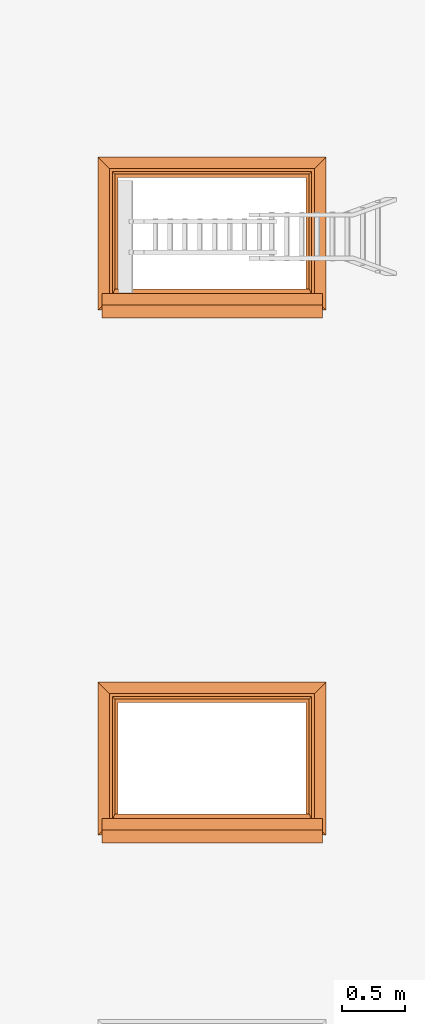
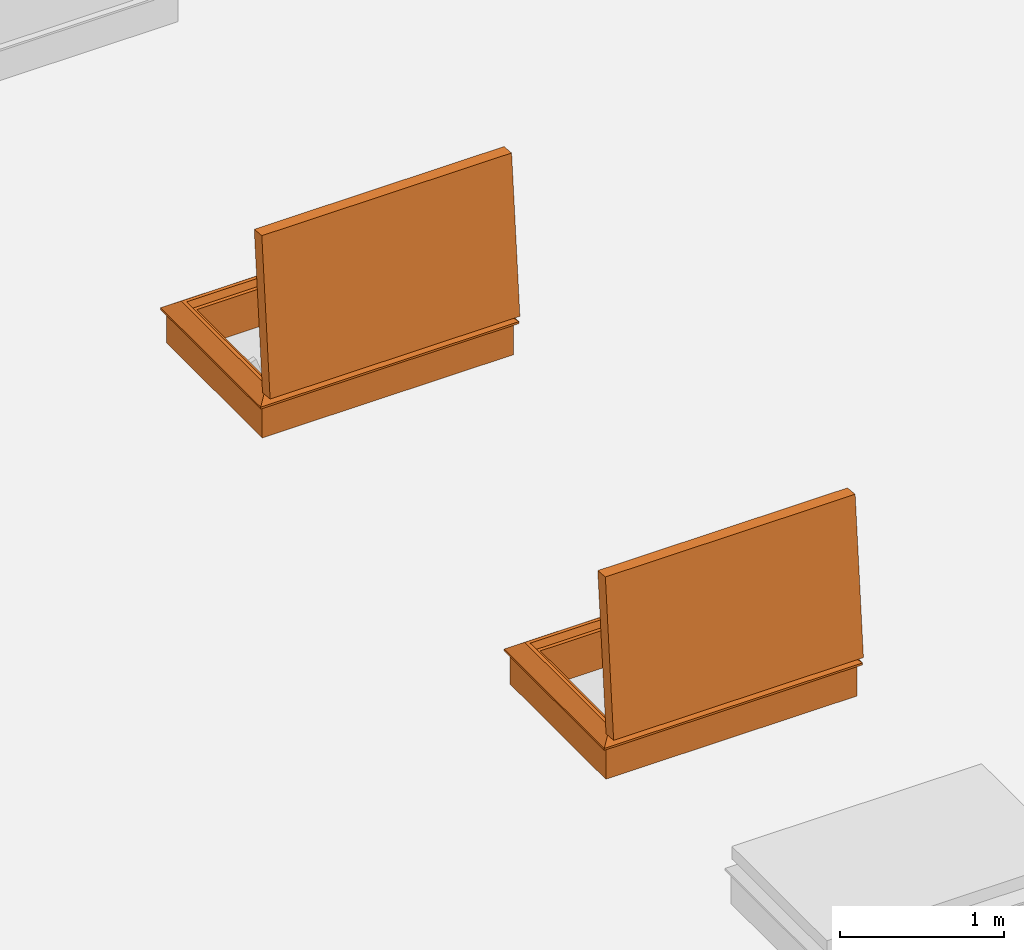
# One storey, part 17 of 28: 2 proxies.
"""IFC2X3 building model written with IfcOpenShell, lengths in millimetres."""

from ifc_helpers import new_model, entity, si_unit, converted_unit, derived_unit, direction, frame, origin, place, context, subcontext, project, spatial, faceted_brep, source, transform, mapped, type_object, type_shapes, element, save


model = new_model("IFC2X3")

# Units and contexts
model_context = context("Model", 3, precision=0.01, world=origin(), true_north=direction((6.12303176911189e-17, 1.0)))
body_context = subcontext(model_context, "Body", "Model", "MODEL_VIEW")
ifc_project = project(units=[si_unit("LENGTHUNIT", "METRE", prefix="MILLI"), si_unit("AREAUNIT", "SQUARE_METRE"), si_unit("VOLUMEUNIT", "CUBIC_METRE"), converted_unit("PLANEANGLEUNIT", "DEGREE", entity("IfcRatioMeasure", 0.0174532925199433), si_unit("PLANEANGLEUNIT", "RADIAN"), dimensions=[0, 0, 0, 0, 0, 0, 0]), si_unit("MASSUNIT", "GRAM", prefix="KILO"), derived_unit("MASSDENSITYUNIT", [(si_unit("MASSUNIT", "GRAM", prefix="KILO"), 1), (si_unit("LENGTHUNIT", "METRE"), -3)]), si_unit("TIMEUNIT", "SECOND"), si_unit("FREQUENCYUNIT", "HERTZ"), si_unit("THERMODYNAMICTEMPERATUREUNIT", "DEGREE_CELSIUS"), derived_unit("THERMALTRANSMITTANCEUNIT", [(si_unit("MASSUNIT", "GRAM", prefix="KILO"), 1), (si_unit("THERMODYNAMICTEMPERATUREUNIT", "KELVIN"), -1), (si_unit("TIMEUNIT", "SECOND"), -3)]), derived_unit("VOLUMETRICFLOWRATEUNIT", [(si_unit("LENGTHUNIT", "METRE"), 3), (si_unit("TIMEUNIT", "SECOND"), -1)]), si_unit("ELECTRICCURRENTUNIT", "AMPERE"), si_unit("ELECTRICVOLTAGEUNIT", "VOLT"), si_unit("POWERUNIT", "WATT"), si_unit("FORCEUNIT", "NEWTON", prefix="KILO"), si_unit("ILLUMINANCEUNIT", "LUX"), si_unit("LUMINOUSFLUXUNIT", "LUMEN"), si_unit("LUMINOUSINTENSITYUNIT", "CANDELA"), derived_unit("USERDEFINED", [(si_unit("MASSUNIT", "GRAM", prefix="KILO"), -1), (si_unit("LENGTHUNIT", "METRE"), -2), (si_unit("TIMEUNIT", "SECOND"), 3), (si_unit("LUMINOUSFLUXUNIT", "LUMEN"), 1)]), derived_unit("LINEARVELOCITYUNIT", [(si_unit("LENGTHUNIT", "METRE"), 1), (si_unit("TIMEUNIT", "SECOND"), -1)]), si_unit("PRESSUREUNIT", "PASCAL"), derived_unit("USERDEFINED", [(si_unit("LENGTHUNIT", "METRE"), -2), (si_unit("MASSUNIT", "GRAM", prefix="KILO"), 1), (si_unit("TIMEUNIT", "SECOND"), -2)])], contexts=[model_context])

# Site, building, storey
site_placement = place(None, origin())
site = spatial("IfcSite", under=ifc_project, at=site_placement, Name="Default", CompositionType="ELEMENT")
building_placement = place(site_placement, origin())
building = spatial("IfcBuilding", under=site, at=building_placement, CompositionType="ELEMENT")
storey_placement = place(building_placement, frame((0.0, 0.0, 4000.0)))
storey = spatial("IfcBuildingStorey", under=building, at=storey_placement, Name="Level 2", CompositionType="ELEMENT", Elevation=4000.0)

# Proxies
building_element_proxy_type_1 = type_object("IfcBuildingElementProxyType", Name="1500 x 900 2part Stair", PredefinedType="NOTDEFINED")
shared_shape_1 = source(origin(), body_context, "Body", "Brep", [
    faceted_brep([(-1631.26976233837, -350.124781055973, 344.195196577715), (-1631.26976233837, -348.800451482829, 344.908169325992), (-1631.26976233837, -347.339899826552, 345.26729022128), (-1631.26976233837, -345.835948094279, 345.249736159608), (-1631.26976233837, -344.384176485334, 344.856622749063), (-1631.26976233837, -343.076849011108, 344.112933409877), (-1631.26976233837, -341.997049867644, 343.065931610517), (-1631.26976233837, -341.213403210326, 341.782157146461), (-1631.26976233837, -340.775711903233, 340.343197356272), (-1631.26976233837, -340.711792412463, 338.840502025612), (-1631.26976233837, -340.696254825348, 336.62771705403), (-1631.26976233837, -340.198130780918, 334.471671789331), (-1631.26976233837, -339.24143902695, 332.476327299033), (-1631.26976233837, -337.872309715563, 330.737895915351), (-1631.26976233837, -336.156760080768, 329.340202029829), (-1631.26976233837, -334.177511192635, 328.350640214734), (-1631.26976233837, -301.289293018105, 316.210889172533), (-1631.26976233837, -348.141421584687, 278.729186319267), (-1631.26976233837, -358.074072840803, 291.145000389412), (-1631.26976233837, -359.148733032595, 293.636450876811), (-1631.26976233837, -359.233835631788, 296.34845707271), (-1631.26976233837, -352.042121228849, 341.908549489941), (-1631.26976233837, -351.228723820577, 343.173683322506), (-1599.74602094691, -334.177511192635, 328.350640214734), (-1599.74602094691, -301.289293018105, 316.210889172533), (-1599.74602094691, -348.141421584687, 278.729186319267), (-1599.74602094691, -358.074072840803, 291.145000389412), (-1599.74602094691, -359.148733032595, 293.636450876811), (-1599.74602094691, -359.23383563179, 296.34845707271), (-1599.74602094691, -352.042121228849, 341.908549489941), (-1599.74602094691, -351.228723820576, 343.173683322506), (-1599.74602094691, -350.124781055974, 344.195196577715), (-1599.74602094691, -348.80045148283, 344.908169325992), (-1599.74602094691, -347.339899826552, 345.26729022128), (-1599.74602094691, -345.835948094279, 345.249736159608), (-1599.74602094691, -344.384176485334, 344.856622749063), (-1599.74602094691, -343.076849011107, 344.112933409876), (-1599.74602094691, -341.997049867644, 343.065931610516), (-1599.74602094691, -341.213403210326, 341.78215714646), (-1599.74602094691, -340.775711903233, 340.343197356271), (-1599.74602094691, -340.711792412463, 338.840502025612), (-1599.74602094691, -340.696254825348, 336.62771705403), (-1599.74602094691, -340.198130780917, 334.471671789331), (-1599.74602094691, -339.24143902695, 332.476327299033), (-1599.74602094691, -336.156760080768, 329.340202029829), (-1599.74602094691, -337.872309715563, 330.737895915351)], [[[0, 1, 2, 3, 4, 5, 6, 7, 8, 9, 10, 11, 12, 13, 14, 15, 16, 17, 18, 19, 20, 21, 22]], [[16, 15, 23, 24]], [[17, 16, 24, 25]], [[18, 17, 25, 26]], [[18, 26, 27, 19]], [[28, 20, 19, 27]], [[21, 20, 28, 29]], [[30, 22, 21, 29]], [[31, 0, 22, 30]], [[2, 1, 32, 33]], [[1, 0, 31, 32]], [[33, 34, 3, 2]], [[34, 35, 4, 3]], [[36, 5, 4, 35]], [[37, 6, 5, 36]], [[38, 39, 8, 7]], [[38, 7, 6, 37]], [[9, 8, 39, 40]], [[41, 42, 11, 10]], [[40, 41, 10, 9]], [[43, 12, 11, 42]], [[44, 23, 15, 14]], [[45, 44, 14, 13]], [[45, 13, 12, 43]], [[25, 24, 23, 44, 45, 43, 42, 41, 40, 39, 38, 37, 36, 35, 34, 33, 32, 31, 30, 29, 28, 27, 26]]]),
    faceted_brep([(-164.993105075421, -340.696254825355, 336.62771705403), (-164.993105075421, -340.71179241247, 338.840502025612), (-131.269762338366, -340.71179241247, 338.840502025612), (-131.269762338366, -340.696254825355, 336.62771705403), (-164.993105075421, -340.198130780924, 334.471671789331), (-131.269762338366, -340.198130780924, 334.471671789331), (-131.269762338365, -339.241439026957, 332.476327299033), (-164.993105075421, -339.241439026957, 332.476327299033), (-164.993105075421, -336.156760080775, 329.340202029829), (-164.993105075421, -337.87230971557, 330.737895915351), (-131.269762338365, -337.87230971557, 330.737895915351), (-131.269762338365, -336.156760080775, 329.340202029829), (-164.993105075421, -334.177511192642, 328.350640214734), (-131.269762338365, -334.177511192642, 328.350640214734), (-131.269762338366, -351.228723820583, 343.173683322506), (-164.993105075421, -351.228723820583, 343.173683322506), (-164.993105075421, -352.042121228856, 341.908549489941), (-131.269762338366, -352.042121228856, 341.908549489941), (-131.269762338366, -350.12478105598, 344.195196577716), (-164.993105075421, -350.12478105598, 344.195196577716), (-164.993105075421, -347.339899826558, 345.26729022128), (-164.993105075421, -348.800451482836, 344.908169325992), (-131.269762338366, -348.800451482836, 344.908169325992), (-131.269762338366, -347.339899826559, 345.26729022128), (-164.993105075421, -345.835948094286, 345.249736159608), (-131.269762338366, -345.835948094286, 345.249736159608), (-131.269762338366, -344.384176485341, 344.856622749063), (-164.993105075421, -344.384176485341, 344.856622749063), (-131.269762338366, -343.076849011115, 344.112933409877), (-164.993105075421, -343.076849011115, 344.112933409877), (-131.269762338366, -341.997049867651, 343.065931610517), (-164.993105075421, -341.997049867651, 343.065931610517), (-164.993105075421, -340.77571190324, 340.343197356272), (-164.993105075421, -341.213403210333, 341.782157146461), (-131.269762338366, -341.213403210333, 341.782157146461), (-131.269762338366, -340.77571190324, 340.343197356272), (-164.993105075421, -359.233835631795, 296.34845707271), (-131.269762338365, -359.233835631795, 296.34845707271), (-164.993105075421, -359.148733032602, 293.636450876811), (-164.993105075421, -358.07407284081, 291.145000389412), (-131.269762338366, -358.07407284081, 291.145000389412), (-131.269762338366, -359.148733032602, 293.636450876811), (-164.993105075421, -348.141421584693, 278.729186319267), (-131.269762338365, -348.141421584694, 278.729186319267), (-164.993105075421, -301.289293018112, 316.210889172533), (-131.269762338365, -301.289293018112, 316.210889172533)], [[[0, 1, 2, 3]], [[4, 0, 3, 5]], [[6, 7, 4, 5]], [[8, 9, 10, 11]], [[12, 8, 11, 13]], [[10, 9, 7, 6]], [[14, 15, 16, 17]], [[18, 19, 15, 14]], [[20, 21, 22, 23]], [[18, 22, 21, 19]], [[24, 20, 23, 25]], [[25, 26, 27, 24]], [[28, 29, 27, 26]], [[30, 31, 29, 28]], [[32, 33, 34, 35]], [[30, 34, 33, 31]], [[1, 32, 35, 2]], [[16, 36, 37, 17]], [[38, 39, 40, 41]], [[38, 41, 37, 36]], [[39, 42, 43, 40]], [[42, 44, 45, 43]], [[44, 12, 13, 45]], [[37, 41, 40, 43, 45, 13, 11, 10, 6, 5, 3, 2, 35, 34, 30, 28, 26, 25, 23, 22, 18, 14, 17]], [[1, 0, 4, 7, 9, 8, 12, 44, 42, 39, 38, 36, 16, 15, 19, 21, 20, 24, 27, 29, 31, 33, 32]]]),
    faceted_brep([(-61.2697623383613, 753.447095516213, 328.0), (30.7302376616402, 845.447095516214, 254.4), (-1793.26976233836, 845.447095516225, 254.4), (-1701.26976233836, 753.447095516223, 328.0), (-105.269762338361, 709.447095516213, 282.0), (-85.7439207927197, 728.972937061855, 328.0), (-1676.795603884, 728.972937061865, 328.0), (-1657.26976233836, 709.447095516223, 282.0), (-131.269762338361, 683.447095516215, 0.0), (-131.269762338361, 683.447095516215, 282.0), (-1631.26976233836, 683.447095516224, 282.0), (-1631.26976233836, 683.447095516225, 0.0), (4.73023766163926, 819.447095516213, 240.0), (4.73023766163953, 819.447095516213, 0.0), (-1767.26976233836, 819.447095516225, 0.0), (-1767.26976233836, 819.447095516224, 240.0), (30.7302376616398, 845.447095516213, 240.0), (-1793.26976233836, 845.447095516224, 240.0), (-1793.26976233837, -378.552904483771, 254.4), (-1701.26976233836, -286.55290448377, 328.0), (-1676.79560388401, -262.078746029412, 328.0), (-1657.26976233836, -242.552904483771, 282.0), (-1631.26976233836, -216.552904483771, 282.0), (-1631.26976233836, -216.552904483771, 0.0), (-1767.26976233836, -352.55290448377, 0.0), (-1767.26976233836, -352.55290448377, 240.0), (-1793.26976233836, -378.55290448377, 240.0), (30.7302376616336, -378.552904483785, 254.399999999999), (-61.2697623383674, -286.552904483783, 328.0), (-85.7439207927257, -262.078746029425, 328.0), (-105.269762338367, -242.552904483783, 282.0), (-131.269762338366, -216.552904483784, 282.0), (-131.269762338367, -216.552904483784, 0.0), (4.73023766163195, -352.552904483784, 0.0), (4.73023766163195, -352.552904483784, 240.0), (30.7302376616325, -378.552904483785, 240.0)], [[[0, 1, 2, 3]], [[4, 5, 6, 7]], [[8, 9, 10, 11]], [[12, 13, 14, 15]], [[1, 16, 17, 2]], [[3, 2, 18, 19]], [[7, 6, 20, 21]], [[11, 10, 22, 23]], [[15, 14, 24, 25]], [[2, 17, 26, 18]], [[19, 18, 27, 28]], [[21, 20, 29, 30]], [[23, 22, 31, 32]], [[25, 24, 33, 34]], [[18, 26, 35, 27]], [[28, 27, 1, 0]], [[3, 19, 28, 0], [5, 29, 20, 6]], [[30, 29, 5, 4]], [[7, 21, 30, 4], [9, 31, 22, 10]], [[32, 31, 9, 8]], [[11, 23, 32, 8], [13, 33, 24, 14]], [[34, 33, 13, 12]], [[15, 25, 34, 12], [16, 35, 26, 17]], [[27, 35, 16, 1]]], outer=[[True], [True], [True], [True], [True], [True], [True], [True], [True], [True], [True], [True], [True], [True], [True], [True], [True, False], [True], [True, False], [True], [False, True], [True], [False, True], [True]]),
    faceted_brep([(-1633.27259076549, -350.029551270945, 1370.57460720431), (-1633.27259076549, -428.818342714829, 470.014600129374), (-128.272590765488, -428.81834271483, 470.014600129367), (-128.272590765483, -350.029551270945, 1370.57460720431), (-1633.27259076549, -211.160010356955, 1358.42509666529), (-128.272590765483, -211.160010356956, 1358.42509666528), (-128.272590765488, -289.94880180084, 457.865089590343), (-1633.27259076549, -289.948801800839, 457.86508959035)], [[[0, 1, 2, 3]], [[4, 5, 6, 7]], [[1, 0, 4, 7]], [[2, 1, 7, 6]], [[3, 2, 6, 5]], [[0, 3, 5, 4]]]),
    faceted_brep([(-128.272590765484, -211.16001035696, 1358.42509666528), (-128.272590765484, -350.02955127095, 1370.57460720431), (-1633.27259076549, -350.029551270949, 1370.57460720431), (-1633.27259076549, -211.16001035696, 1358.42509666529), (-85.2725907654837, -253.635747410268, 1405.30549514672), (-102.872590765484, -208.94625449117, 1383.72844199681), (-1658.67259076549, -208.946254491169, 1383.72844199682), (-1676.27259076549, -253.635747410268, 1405.30549514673), (0.727409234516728, -338.786460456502, 1499.08372325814), (0.727409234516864, -246.14035353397, 1490.97823918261), (-1762.27259076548, -246.140353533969, 1490.97823918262), (-1762.27259076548, -338.786460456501, 1499.08372325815), (-1633.27259076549, -428.818342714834, 470.014600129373), (-1633.27259076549, -289.948801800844, 457.865089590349), (-1658.67259076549, -292.162557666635, 432.561744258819), (-1676.27259076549, -339.919932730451, 419.072744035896), (-1762.27259076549, -347.41532660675, 333.400000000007), (-1762.27259076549, -440.061433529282, 341.505484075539), (-128.27259076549, -428.818342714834, 470.014600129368), (-128.27259076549, -289.948801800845, 457.865089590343), (-102.87259076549, -292.162557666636, 432.561744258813), (-85.2725907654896, -339.919932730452, 419.072744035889), (0.727409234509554, -347.41532660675, 333.399999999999), (0.727409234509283, -440.061433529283, 341.505484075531)], [[[0, 1, 2, 3]], [[4, 5, 6, 7]], [[8, 9, 10, 11]], [[3, 2, 12, 13]], [[7, 6, 14, 15]], [[11, 10, 16, 17]], [[13, 12, 18, 19]], [[15, 14, 20, 21]], [[17, 16, 22, 23]], [[19, 18, 1, 0]], [[3, 13, 19, 0], [5, 20, 14, 6]], [[21, 20, 5, 4]], [[7, 15, 21, 4], [9, 22, 16, 10]], [[23, 22, 9, 8]], [[1, 18, 12, 2], [11, 17, 23, 8]]], outer=[[True], [True], [True], [True], [True], [True], [True], [True], [True], [True], [False, True], [True], [False, True], [True], [False, True]]),
])
type_shapes(building_element_proxy_type_1, [shared_shape_1])
proxy_1_placement = place(storey_placement, frame((-4778.38927370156, 5422.19034122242, 400.0)))
element("IfcBuildingElementProxy", 1, at=proxy_1_placement, inside=storey, type_object=building_element_proxy_type_1, Name="4_Topaccess_dakluik_1500x900_Staka:1500 x 900 2part Stair", ObjectType="1500 x 900 2part Stair", context=body_context, shape_type="MappedRepresentation", body=[
    mapped(shared_shape_1, transform((0.0, 0.0, 0.0), scale=1.0)),
])
building_element_proxy_type_2 = type_object("IfcBuildingElementProxyType", Name="1500 x 900", PredefinedType="NOTDEFINED")
shared_shape_2 = source(origin(), body_context, "Body", "Brep", [
    faceted_brep([(-1631.26976233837, -350.124781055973, 344.195196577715), (-1631.26976233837, -348.800451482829, 344.908169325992), (-1631.26976233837, -347.339899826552, 345.26729022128), (-1631.26976233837, -345.835948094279, 345.249736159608), (-1631.26976233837, -344.384176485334, 344.856622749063), (-1631.26976233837, -343.076849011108, 344.112933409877), (-1631.26976233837, -341.997049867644, 343.065931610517), (-1631.26976233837, -341.213403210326, 341.782157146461), (-1631.26976233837, -340.775711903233, 340.343197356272), (-1631.26976233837, -340.711792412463, 338.840502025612), (-1631.26976233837, -340.696254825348, 336.62771705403), (-1631.26976233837, -340.198130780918, 334.471671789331), (-1631.26976233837, -339.24143902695, 332.476327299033), (-1631.26976233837, -337.872309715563, 330.737895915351), (-1631.26976233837, -336.156760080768, 329.340202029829), (-1631.26976233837, -334.177511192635, 328.350640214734), (-1631.26976233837, -301.289293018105, 316.210889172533), (-1631.26976233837, -348.141421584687, 278.729186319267), (-1631.26976233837, -358.074072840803, 291.145000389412), (-1631.26976233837, -359.148733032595, 293.636450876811), (-1631.26976233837, -359.233835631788, 296.34845707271), (-1631.26976233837, -352.042121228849, 341.908549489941), (-1631.26976233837, -351.228723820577, 343.173683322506), (-1599.74602094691, -334.177511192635, 328.350640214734), (-1599.74602094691, -301.289293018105, 316.210889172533), (-1599.74602094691, -348.141421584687, 278.729186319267), (-1599.74602094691, -358.074072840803, 291.145000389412), (-1599.74602094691, -359.148733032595, 293.636450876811), (-1599.74602094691, -359.23383563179, 296.34845707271), (-1599.74602094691, -352.042121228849, 341.908549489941), (-1599.74602094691, -351.228723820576, 343.173683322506), (-1599.74602094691, -350.124781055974, 344.195196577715), (-1599.74602094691, -348.80045148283, 344.908169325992), (-1599.74602094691, -347.339899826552, 345.26729022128), (-1599.74602094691, -345.835948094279, 345.249736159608), (-1599.74602094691, -344.384176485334, 344.856622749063), (-1599.74602094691, -343.076849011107, 344.112933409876), (-1599.74602094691, -341.997049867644, 343.065931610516), (-1599.74602094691, -341.213403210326, 341.78215714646), (-1599.74602094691, -340.775711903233, 340.343197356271), (-1599.74602094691, -340.711792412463, 338.840502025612), (-1599.74602094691, -340.696254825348, 336.62771705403), (-1599.74602094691, -340.198130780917, 334.471671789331), (-1599.74602094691, -339.24143902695, 332.476327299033), (-1599.74602094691, -336.156760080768, 329.340202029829), (-1599.74602094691, -337.872309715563, 330.737895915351)], [[[0, 1, 2, 3, 4, 5, 6, 7, 8, 9, 10, 11, 12, 13, 14, 15, 16, 17, 18, 19, 20, 21, 22]], [[16, 15, 23, 24]], [[17, 16, 24, 25]], [[18, 17, 25, 26]], [[18, 26, 27, 19]], [[28, 20, 19, 27]], [[21, 20, 28, 29]], [[30, 22, 21, 29]], [[31, 0, 22, 30]], [[2, 1, 32, 33]], [[1, 0, 31, 32]], [[33, 34, 3, 2]], [[34, 35, 4, 3]], [[36, 5, 4, 35]], [[37, 6, 5, 36]], [[38, 39, 8, 7]], [[38, 7, 6, 37]], [[9, 8, 39, 40]], [[41, 42, 11, 10]], [[40, 41, 10, 9]], [[43, 12, 11, 42]], [[44, 23, 15, 14]], [[45, 44, 14, 13]], [[45, 13, 12, 43]], [[25, 24, 23, 44, 45, 43, 42, 41, 40, 39, 38, 37, 36, 35, 34, 33, 32, 31, 30, 29, 28, 27, 26]]]),
    faceted_brep([(-164.993105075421, -301.289293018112, 316.210889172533), (-164.993105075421, -334.177511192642, 328.350640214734), (-131.269762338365, -334.177511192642, 328.350640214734), (-131.269762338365, -301.289293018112, 316.210889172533), (-164.993105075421, -348.141421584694, 278.729186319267), (-131.269762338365, -348.141421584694, 278.729186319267), (-164.993105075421, -358.07407284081, 291.145000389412), (-131.269762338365, -358.07407284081, 291.145000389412), (-164.993105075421, -359.148733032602, 293.636450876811), (-131.269762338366, -359.148733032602, 293.636450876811), (-131.269762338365, -359.233835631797, 296.34845707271), (-164.993105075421, -359.233835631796, 296.34845707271), (-164.993105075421, -352.042121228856, 341.908549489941), (-131.269762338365, -352.042121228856, 341.908549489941), (-131.269762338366, -351.228723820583, 343.173683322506), (-164.993105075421, -351.228723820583, 343.173683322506), (-131.269762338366, -350.12478105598, 344.195196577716), (-164.993105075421, -350.12478105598, 344.195196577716), (-164.993105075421, -347.339899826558, 345.26729022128), (-164.993105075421, -348.800451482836, 344.908169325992), (-131.269762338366, -348.800451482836, 344.908169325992), (-131.269762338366, -347.339899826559, 345.26729022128), (-164.993105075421, -345.835948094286, 345.249736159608), (-131.269762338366, -345.835948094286, 345.249736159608), (-131.269762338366, -344.384176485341, 344.856622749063), (-164.993105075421, -344.384176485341, 344.856622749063), (-131.269762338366, -343.076849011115, 344.112933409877), (-164.993105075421, -343.076849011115, 344.112933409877), (-131.269762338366, -341.997049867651, 343.065931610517), (-164.993105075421, -341.997049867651, 343.065931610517), (-164.993105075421, -340.77571190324, 340.343197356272), (-164.993105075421, -341.213403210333, 341.782157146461), (-131.269762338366, -341.213403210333, 341.782157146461), (-131.269762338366, -340.77571190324, 340.343197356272), (-164.993105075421, -340.71179241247, 338.840502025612), (-131.269762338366, -340.71179241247, 338.840502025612), (-164.993105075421, -340.696254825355, 336.62771705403), (-131.269762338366, -340.696254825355, 336.62771705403), (-164.993105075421, -340.198130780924, 334.471671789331), (-131.269762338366, -340.198130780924, 334.471671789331), (-131.269762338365, -339.241439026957, 332.476327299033), (-164.993105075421, -339.241439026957, 332.476327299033), (-164.993105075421, -336.156760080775, 329.340202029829), (-164.993105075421, -337.87230971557, 330.737895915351), (-131.269762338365, -337.87230971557, 330.737895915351), (-131.269762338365, -336.156760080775, 329.340202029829)], [[[0, 1, 2, 3]], [[4, 0, 3, 5]], [[6, 4, 5, 7]], [[8, 6, 7, 9]], [[8, 9, 10, 11]], [[12, 11, 10, 13]], [[14, 15, 12, 13]], [[16, 17, 15, 14]], [[18, 19, 20, 21]], [[16, 20, 19, 17]], [[22, 18, 21, 23]], [[23, 24, 25, 22]], [[26, 27, 25, 24]], [[28, 29, 27, 26]], [[30, 31, 32, 33]], [[28, 32, 31, 29]], [[34, 30, 33, 35]], [[36, 34, 35, 37]], [[38, 36, 37, 39]], [[40, 41, 38, 39]], [[42, 43, 44, 45]], [[1, 42, 45, 2]], [[44, 43, 41, 40]], [[10, 9, 7, 5, 3, 2, 45, 44, 40, 39, 37, 35, 33, 32, 28, 26, 24, 23, 21, 20, 16, 14, 13]], [[34, 36, 38, 41, 43, 42, 1, 0, 4, 6, 8, 11, 12, 15, 17, 19, 18, 22, 25, 27, 29, 31, 30]]]),
    faceted_brep([(-61.2697623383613, 753.447095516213, 328.0), (30.7302376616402, 845.447095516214, 254.4), (-1793.26976233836, 845.447095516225, 254.4), (-1701.26976233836, 753.447095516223, 328.0), (-105.269762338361, 709.447095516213, 282.0), (-85.7439207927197, 728.972937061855, 328.0), (-1676.795603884, 728.972937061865, 328.0), (-1657.26976233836, 709.447095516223, 282.0), (-131.269762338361, 683.447095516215, 0.0), (-131.269762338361, 683.447095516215, 282.0), (-1631.26976233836, 683.447095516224, 282.0), (-1631.26976233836, 683.447095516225, 0.0), (4.73023766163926, 819.447095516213, 240.0), (4.73023766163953, 819.447095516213, 0.0), (-1767.26976233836, 819.447095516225, 0.0), (-1767.26976233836, 819.447095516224, 240.0), (30.7302376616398, 845.447095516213, 240.0), (-1793.26976233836, 845.447095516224, 240.0), (-1793.26976233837, -378.552904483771, 254.4), (-1701.26976233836, -286.55290448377, 328.0), (-1676.79560388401, -262.078746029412, 328.0), (-1657.26976233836, -242.552904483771, 282.0), (-1631.26976233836, -216.552904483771, 282.0), (-1631.26976233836, -216.552904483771, 0.0), (-1767.26976233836, -352.55290448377, 0.0), (-1767.26976233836, -352.55290448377, 240.0), (-1793.26976233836, -378.55290448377, 240.0), (30.7302376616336, -378.552904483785, 254.399999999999), (-61.2697623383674, -286.552904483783, 328.0), (-85.7439207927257, -262.078746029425, 328.0), (-105.269762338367, -242.552904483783, 282.0), (-131.269762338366, -216.552904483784, 282.0), (-131.269762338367, -216.552904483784, 0.0), (4.73023766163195, -352.552904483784, 0.0), (4.73023766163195, -352.552904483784, 240.0), (30.7302376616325, -378.552904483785, 240.0)], [[[0, 1, 2, 3]], [[4, 5, 6, 7]], [[8, 9, 10, 11]], [[12, 13, 14, 15]], [[1, 16, 17, 2]], [[3, 2, 18, 19]], [[7, 6, 20, 21]], [[11, 10, 22, 23]], [[15, 14, 24, 25]], [[2, 17, 26, 18]], [[19, 18, 27, 28]], [[21, 20, 29, 30]], [[23, 22, 31, 32]], [[25, 24, 33, 34]], [[18, 26, 35, 27]], [[28, 27, 1, 0]], [[3, 19, 28, 0], [5, 29, 20, 6]], [[30, 29, 5, 4]], [[7, 21, 30, 4], [9, 31, 22, 10]], [[32, 31, 9, 8]], [[11, 23, 32, 8], [13, 33, 24, 14]], [[34, 33, 13, 12]], [[15, 25, 34, 12], [16, 35, 26, 17]], [[27, 35, 16, 1]]], outer=[[True], [True], [True], [True], [True], [True], [True], [True], [True], [True], [True], [True], [True], [True], [True], [True], [True, False], [True], [True, False], [True], [False, True], [True], [False, True], [True]]),
    faceted_brep([(-1633.27259076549, -350.029551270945, 1370.57460720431), (-1633.27259076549, -428.818342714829, 470.014600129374), (-128.272590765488, -428.81834271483, 470.014600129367), (-128.272590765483, -350.029551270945, 1370.57460720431), (-1633.27259076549, -211.160010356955, 1358.42509666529), (-128.272590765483, -211.160010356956, 1358.42509666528), (-128.272590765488, -289.94880180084, 457.865089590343), (-1633.27259076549, -289.948801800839, 457.86508959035)], [[[0, 1, 2, 3]], [[4, 5, 6, 7]], [[1, 0, 4, 7]], [[2, 1, 7, 6]], [[3, 2, 6, 5]], [[0, 3, 5, 4]]]),
    faceted_brep([(-128.272590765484, -211.16001035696, 1358.42509666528), (-128.272590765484, -350.02955127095, 1370.57460720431), (-1633.27259076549, -350.029551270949, 1370.57460720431), (-1633.27259076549, -211.16001035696, 1358.42509666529), (-85.2725907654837, -253.635747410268, 1405.30549514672), (-102.872590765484, -208.94625449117, 1383.72844199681), (-1658.67259076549, -208.946254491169, 1383.72844199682), (-1676.27259076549, -253.635747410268, 1405.30549514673), (0.727409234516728, -338.786460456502, 1499.08372325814), (0.727409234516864, -246.14035353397, 1490.97823918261), (-1762.27259076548, -246.140353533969, 1490.97823918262), (-1762.27259076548, -338.786460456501, 1499.08372325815), (-1633.27259076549, -428.818342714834, 470.014600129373), (-1633.27259076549, -289.948801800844, 457.865089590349), (-1658.67259076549, -292.162557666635, 432.561744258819), (-1676.27259076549, -339.919932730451, 419.072744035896), (-1762.27259076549, -347.41532660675, 333.400000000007), (-1762.27259076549, -440.061433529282, 341.505484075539), (-128.27259076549, -428.818342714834, 470.014600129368), (-128.27259076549, -289.948801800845, 457.865089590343), (-102.87259076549, -292.162557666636, 432.561744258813), (-85.2725907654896, -339.919932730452, 419.072744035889), (0.727409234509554, -347.41532660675, 333.399999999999), (0.727409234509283, -440.061433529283, 341.505484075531)], [[[0, 1, 2, 3]], [[4, 5, 6, 7]], [[8, 9, 10, 11]], [[3, 2, 12, 13]], [[7, 6, 14, 15]], [[11, 10, 16, 17]], [[13, 12, 18, 19]], [[15, 14, 20, 21]], [[17, 16, 22, 23]], [[19, 18, 1, 0]], [[3, 13, 19, 0], [5, 20, 14, 6]], [[21, 20, 5, 4]], [[7, 15, 21, 4], [9, 22, 16, 10]], [[23, 22, 9, 8]], [[1, 18, 12, 2], [11, 17, 23, 8]]], outer=[[True], [True], [True], [True], [True], [True], [True], [True], [True], [True], [False, True], [True], [False, True], [True], [False, True]]),
])
type_shapes(building_element_proxy_type_2, [shared_shape_2])
proxy_2_placement = place(storey_placement, frame((-4778.38927370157, 1222.19034122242, 400.0)))
element("IfcBuildingElementProxy", 2, at=proxy_2_placement, inside=storey, type_object=building_element_proxy_type_2, Name="4_Topaccess_dakluik_1500x900_Staka:1500 x 900", ObjectType="1500 x 900", context=body_context, shape_type="MappedRepresentation", body=[
    mapped(shared_shape_2, transform((0.0, 0.0, 0.0), scale=1.0)),
])

save(model, "model.ifc")
